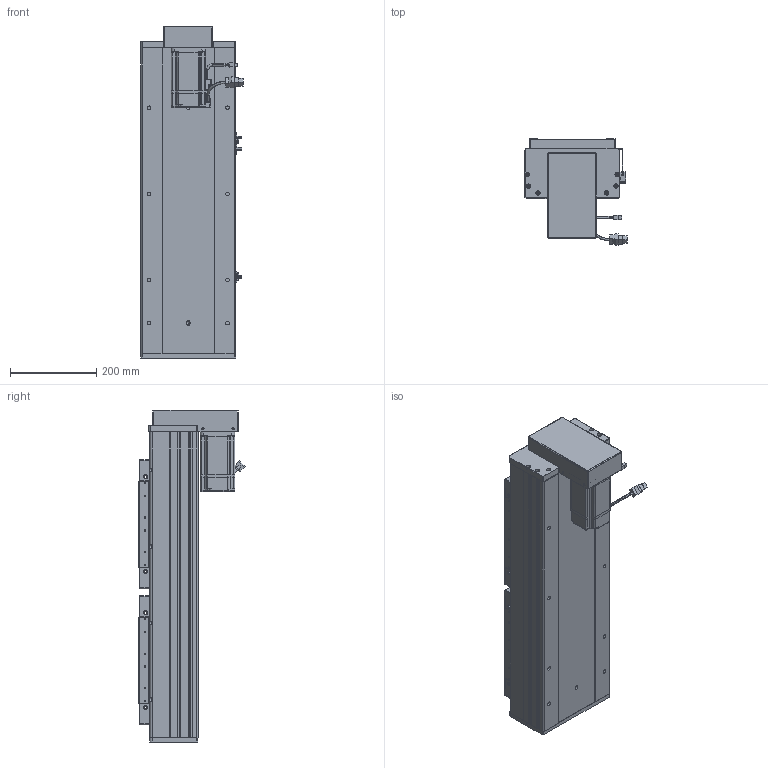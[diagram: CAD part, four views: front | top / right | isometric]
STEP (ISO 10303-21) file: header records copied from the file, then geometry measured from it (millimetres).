
FILE_DESCRIPTION (( 'STEP AP203' ), '1' );
FILE_NAME ('RY220F-L2525-300-BK.SLDASM_默认.step', '2022-07-04T01:20:04', ( '' ), ( '' ), 'SwSTEP 2.0', 'SolidWorks 2016', '' );
FILE_SCHEMA (( 'CONFIG_CONTROL_DESIGN' ));
Length unit declared in the file: millimetre
Products named in the file (15): RY220狟殏萇儂欶; RY220F蛌殏菁釱-300; RY220F-蛌殏奻裔啣-300; RY220F-祥凄詩湍-蛌殏-300; RY220F-672覜茼んえ; RY220F-滅鳥奻裔; 滅袉蝶18-24; RY220F-L2525-300-BK.SLDASM_默认; RY220F臏賑釱25-32佪裝; 怢湛750W_ECMA-CX0807ES; 侐源滅袉蝶; RY220F-詩湍揤踡輸; 覜茼ん672; RY220狟殏萇儂假蚾啣; RY220F綴裔啣
Assembly tree (24 placements, depth 2):
  RY220F-L2525-300-BK.SLDASM_默认
    RY220F蛌殏菁釱-300
    RY220F-蛌殏奻裔啣-300  x2
    怢湛750W_ECMA-CX0807ES
    RY220F臏賑釱25-32佪裝  x2
    RY220F-滅鳥奻裔  x2
    滅袉蝶18-24  x3
    RY220F綴裔啣
    RY220F-祥凄詩湍-蛌殏-300
    RY220F-詩湍揤踡輸  x2
    覜茼ん672  x3
    RY220F-672覜茼んえ  x2
    侐源滅袉蝶  x2
    RY220狟殏萇儂假蚾啣
    RY220狟殏萇儂欶
Bounding box: 237.27 x 247.24 x 771 mm (x, y, z)
Volume: 9797974.1 mm3; surface area: 2424184.6 mm2
Topology: 25 solids, 25 shells, 2663 faces, 7254 edges, 4513 vertices
Faces by surface type: cylinder 1170, plane 1062, cone 360, bspline 45, sphere 16, torus 10
Entity records: 65721 total; most frequent: CARTESIAN_POINT 18179, ORIENTED_EDGE 9658, DIRECTION 9241, EDGE_CURVE 4829, AXIS2_PLACEMENT_3D 3242, VERTEX_POINT 3129, VECTOR 2757, LINE 2757
